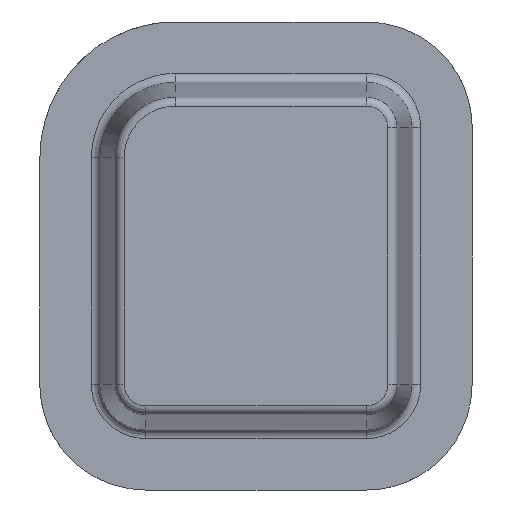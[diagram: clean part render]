
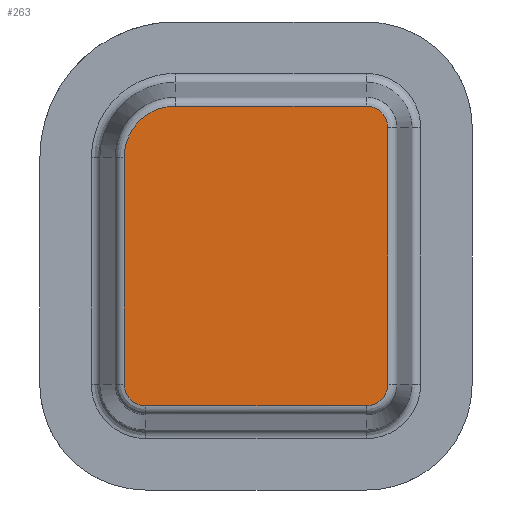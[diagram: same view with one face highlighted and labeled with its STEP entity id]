
A CAD part, front view. The second image highlights one B-rep face of the part: STEP entity #263.
In plain terms, the highlighted planar face has unit normal (0, -1, 0).
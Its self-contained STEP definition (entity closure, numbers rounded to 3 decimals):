
#144=CARTESIAN_POINT('Axis2P3D Location',(48.08,0.,51.92)) ;
#149=CARTESIAN_POINT('Line Origine',(2.749,0.,48.)) ;
#153=CARTESIAN_POINT('Vertex',(2.749,0.,86.)) ;
#155=CARTESIAN_POINT('Vertex',(2.749,0.,10.)) ;
#159=CARTESIAN_POINT('Control Point',(2.749,0.,10.)) ;
#160=CARTESIAN_POINT('Control Point',(2.749,0.,9.038)) ;
#161=CARTESIAN_POINT('Control Point',(2.908,0.,8.077)) ;
#162=CARTESIAN_POINT('Control Point',(3.227,0.,7.152)) ;
#163=CARTESIAN_POINT('Control Point',(4.158,0.,5.442)) ;
#164=CARTESIAN_POINT('Control Point',(5.589,0.,4.124)) ;
#165=CARTESIAN_POINT('Control Point',(6.409,0.,3.59)) ;
#166=CARTESIAN_POINT('Control Point',(7.6,0.,3.072)) ;
#167=CARTESIAN_POINT('Control Point',(8.861,0.,2.828)) ;
#168=CARTESIAN_POINT('Control Point',(9.18,0.,2.785)) ;
#169=CARTESIAN_POINT('Control Point',(9.536,0.,2.756)) ;
#170=CARTESIAN_POINT('Control Point',(9.893,0.,2.75)) ;
#171=CARTESIAN_POINT('Control Point',(9.928,0.,2.749)) ;
#172=CARTESIAN_POINT('Control Point',(9.964,0.,2.749)) ;
#173=CARTESIAN_POINT('Control Point',(10.,0.,2.749)) ;
#174=CARTESIAN_POINT('Vertex',(10.,0.,2.749)) ;
#177=CARTESIAN_POINT('Line Origine',(47.,0.,2.749)) ;
#181=CARTESIAN_POINT('Vertex',(84.,0.,2.749)) ;
#185=CARTESIAN_POINT('Control Point',(84.,0.,2.749)) ;
#186=CARTESIAN_POINT('Control Point',(84.962,0.,2.749)) ;
#187=CARTESIAN_POINT('Control Point',(85.923,0.,2.908)) ;
#188=CARTESIAN_POINT('Control Point',(86.848,0.,3.227)) ;
#189=CARTESIAN_POINT('Control Point',(88.558,0.,4.158)) ;
#190=CARTESIAN_POINT('Control Point',(89.876,0.,5.589)) ;
#191=CARTESIAN_POINT('Control Point',(90.41,0.,6.409)) ;
#192=CARTESIAN_POINT('Control Point',(90.928,0.,7.6)) ;
#193=CARTESIAN_POINT('Control Point',(91.172,0.,8.861)) ;
#194=CARTESIAN_POINT('Control Point',(91.215,0.,9.18)) ;
#195=CARTESIAN_POINT('Control Point',(91.244,0.,9.536)) ;
#196=CARTESIAN_POINT('Control Point',(91.25,0.,9.893)) ;
#197=CARTESIAN_POINT('Control Point',(91.251,0.,9.928)) ;
#198=CARTESIAN_POINT('Control Point',(91.251,0.,9.964)) ;
#199=CARTESIAN_POINT('Control Point',(91.251,0.,10.)) ;
#200=CARTESIAN_POINT('Vertex',(91.251,0.,10.)) ;
#203=CARTESIAN_POINT('Line Origine',(91.251,0.,53.)) ;
#207=CARTESIAN_POINT('Vertex',(91.251,0.,96.)) ;
#211=CARTESIAN_POINT('Control Point',(91.251,0.,96.)) ;
#212=CARTESIAN_POINT('Control Point',(91.251,0.,96.962)) ;
#213=CARTESIAN_POINT('Control Point',(91.092,0.,97.923)) ;
#214=CARTESIAN_POINT('Control Point',(90.773,0.,98.848)) ;
#215=CARTESIAN_POINT('Control Point',(89.842,0.,100.558)) ;
#216=CARTESIAN_POINT('Control Point',(88.411,0.,101.876)) ;
#217=CARTESIAN_POINT('Control Point',(87.591,0.,102.41)) ;
#218=CARTESIAN_POINT('Control Point',(86.4,0.,102.928)) ;
#219=CARTESIAN_POINT('Control Point',(85.139,0.,103.172)) ;
#220=CARTESIAN_POINT('Control Point',(84.82,0.,103.215)) ;
#221=CARTESIAN_POINT('Control Point',(84.464,0.,103.244)) ;
#222=CARTESIAN_POINT('Control Point',(84.107,0.,103.25)) ;
#223=CARTESIAN_POINT('Control Point',(84.072,0.,103.251)) ;
#224=CARTESIAN_POINT('Control Point',(84.036,0.,103.251)) ;
#225=CARTESIAN_POINT('Control Point',(84.,0.,103.251)) ;
#226=CARTESIAN_POINT('Vertex',(84.,0.,103.251)) ;
#229=CARTESIAN_POINT('Line Origine',(52.,0.,103.251)) ;
#233=CARTESIAN_POINT('Vertex',(20.,0.,103.251)) ;
#237=CARTESIAN_POINT('Control Point',(20.,0.,103.251)) ;
#238=CARTESIAN_POINT('Control Point',(18.077,0.,103.251)) ;
#239=CARTESIAN_POINT('Control Point',(16.154,0.,102.983)) ;
#240=CARTESIAN_POINT('Control Point',(14.282,0.,102.447)) ;
#241=CARTESIAN_POINT('Control Point',(10.736,0.,100.869)) ;
#242=CARTESIAN_POINT('Control Point',(7.757,0.,98.382)) ;
#243=CARTESIAN_POINT('Control Point',(6.451,0.,96.938)) ;
#244=CARTESIAN_POINT('Control Point',(4.493,0.,94.045)) ;
#245=CARTESIAN_POINT('Control Point',(3.313,0.,90.767)) ;
#246=CARTESIAN_POINT('Control Point',(2.954,0.,89.258)) ;
#247=CARTESIAN_POINT('Control Point',(2.762,0.,87.684)) ;
#248=CARTESIAN_POINT('Control Point',(2.749,0.,86.109)) ;
#249=CARTESIAN_POINT('Control Point',(2.749,0.,86.072)) ;
#250=CARTESIAN_POINT('Control Point',(2.749,0.,86.036)) ;
#251=CARTESIAN_POINT('Control Point',(2.749,0.,86.)) ;
#145=DIRECTION('Axis2P3D Direction',(0.,-1.,0.)) ;
#146=DIRECTION('Axis2P3D XDirection',(0.217,0.,0.976)) ;
#150=DIRECTION('Vector Direction',(0.,0.,1.)) ;
#178=DIRECTION('Vector Direction',(1.,0.,0.)) ;
#204=DIRECTION('Vector Direction',(0.,0.,1.)) ;
#230=DIRECTION('Vector Direction',(-1.,0.,0.)) ;
#147=AXIS2_PLACEMENT_3D('Plane Axis2P3D',#144,#145,#146) ;
#254=ORIENTED_EDGE('',*,*,#157,.T.) ;
#255=ORIENTED_EDGE('',*,*,#176,.T.) ;
#256=ORIENTED_EDGE('',*,*,#183,.T.) ;
#257=ORIENTED_EDGE('',*,*,#202,.T.) ;
#258=ORIENTED_EDGE('',*,*,#209,.T.) ;
#259=ORIENTED_EDGE('',*,*,#228,.T.) ;
#260=ORIENTED_EDGE('',*,*,#235,.T.) ;
#261=ORIENTED_EDGE('',*,*,#252,.T.) ;
#151=VECTOR('Line Direction',#150,1.) ;
#179=VECTOR('Line Direction',#178,1.) ;
#205=VECTOR('Line Direction',#204,1.) ;
#231=VECTOR('Line Direction',#230,1.) ;
#263=ADVANCED_FACE('base',(#262),#148,.T.) ;
#158=B_SPLINE_CURVE_WITH_KNOTS('',5,(#159,#160,#161,#162,#163,#164,#165,#166,#167,#168,#169,#170,#171,#172,#173),.UNSPECIFIED.,.F.,.U.,(6,3,3,3,6),(26.123,36.015,45.913,49.211,49.58),.UNSPECIFIED.) ;
#184=B_SPLINE_CURVE_WITH_KNOTS('',5,(#185,#186,#187,#188,#189,#190,#191,#192,#193,#194,#195,#196,#197,#198,#199),.UNSPECIFIED.,.F.,.U.,(6,3,3,3,6),(26.123,36.015,45.913,49.212,49.58),.UNSPECIFIED.) ;
#210=B_SPLINE_CURVE_WITH_KNOTS('',5,(#211,#212,#213,#214,#215,#216,#217,#218,#219,#220,#221,#222,#223,#224,#225),.UNSPECIFIED.,.F.,.U.,(6,3,3,3,6),(26.123,36.016,45.913,49.212,49.58),.UNSPECIFIED.) ;
#236=B_SPLINE_CURVE_WITH_KNOTS('',5,(#237,#238,#239,#240,#241,#242,#243,#244,#245,#246,#247,#248,#249,#250,#251),.UNSPECIFIED.,.F.,.U.,(6,3,3,3,6),(38.16,54.146,70.151,82.947,83.247),.UNSPECIFIED.) ;
#157=EDGE_CURVE('',#154,#156,#152,.F.) ;
#176=EDGE_CURVE('',#156,#175,#158,.T.) ;
#183=EDGE_CURVE('',#175,#182,#180,.T.) ;
#202=EDGE_CURVE('',#182,#201,#184,.T.) ;
#209=EDGE_CURVE('',#201,#208,#206,.T.) ;
#228=EDGE_CURVE('',#208,#227,#210,.T.) ;
#235=EDGE_CURVE('',#227,#234,#232,.T.) ;
#252=EDGE_CURVE('',#234,#154,#236,.T.) ;
#253=EDGE_LOOP('',(#254,#255,#256,#257,#258,#259,#260,#261)) ;
#262=FACE_OUTER_BOUND('',#253,.T.) ;
#152=LINE('Line',#149,#151) ;
#180=LINE('Line',#177,#179) ;
#206=LINE('Line',#203,#205) ;
#232=LINE('Line',#229,#231) ;
#148=PLANE('',#147) ;
#154=VERTEX_POINT('',#153) ;
#156=VERTEX_POINT('',#155) ;
#175=VERTEX_POINT('',#174) ;
#182=VERTEX_POINT('',#181) ;
#201=VERTEX_POINT('',#200) ;
#208=VERTEX_POINT('',#207) ;
#227=VERTEX_POINT('',#226) ;
#234=VERTEX_POINT('',#233) ;
